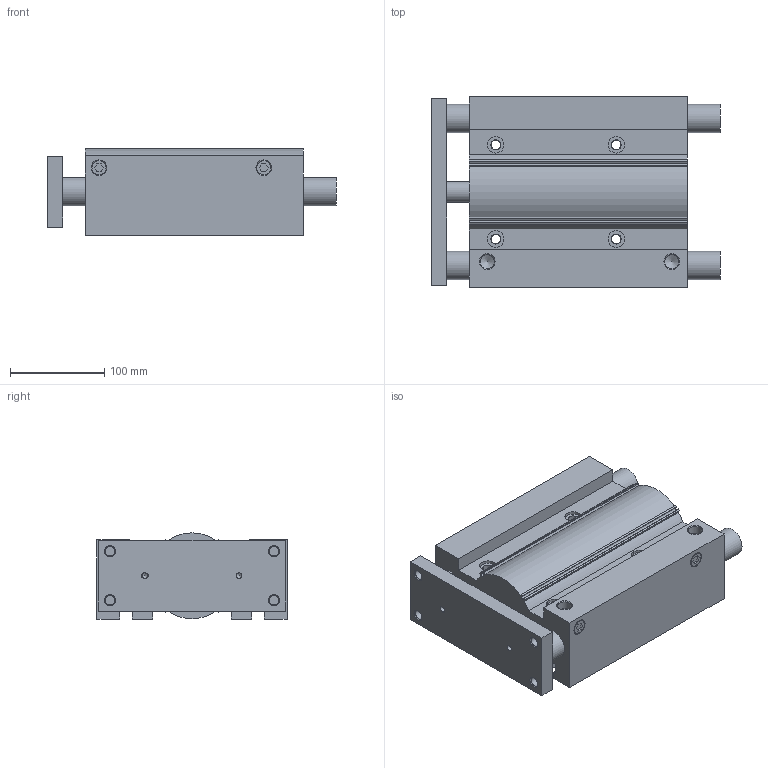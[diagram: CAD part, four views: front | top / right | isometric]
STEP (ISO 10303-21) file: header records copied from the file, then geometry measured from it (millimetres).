
FILE_DESCRIPTION(/* description */ ('STEP AP214'),/* implementation_level */ '2;1');
FILE_NAME(/* name */ 'MGPM80TF-175Z(0_0)',/* time_stamp */ '2025-09-03T15:11:30+02:00',/* author */ ('License CC BY-ND 4.0'),/* organization */ ('CADENAS'),/* preprocessor_version */ 'ST-DEVELOPER v19.3',/* originating_system */ 'PARTsolutions',/* authorisation */ ' ');
FILE_SCHEMA (('AUTOMOTIVE_DESIGN {1 0 10303 214 3 1 1}'));
Length unit declared in the file: millimetre
Products named in the file (4): MGPM80TF-175Z(0_0); MGPM80-175Z(0)_BODY; MGPM80-175Z(0)_ROD; MGP-Z_PLUG_80
Assembly tree (4 placements, depth 2):
  MGPM80TF-175Z(0_0)
    MGPM80-175Z(0)_BODY
    MGPM80-175Z(0)_ROD
    MGP-Z_PLUG_80  x2
Bounding box: 306.5 x 202 x 91.5 mm (x, y, z)
Volume: 2939111.7 mm3; surface area: 457625.2 mm2
Topology: 4 solids, 4 shells, 200 faces, 484 edges, 308 vertices
Faces by surface type: plane 104, cylinder 58, cone 38
Full cylindrical faces by diameter (mm): 6 x6, 10.106 x12, 10.6 x4, 14.95 x4, 16.662 x2, 17.5 x4, 22 x2, 30 x4, 80 x2
Entity records: 5165 total; most frequent: DIRECTION 892, CARTESIAN_POINT 849, ORIENTED_EDGE 734, EDGE_CURVE 367, AXIS2_PLACEMENT_3D 332, FACE_BOUND 312, EDGE_LOOP 298, VERTEX_POINT 289
